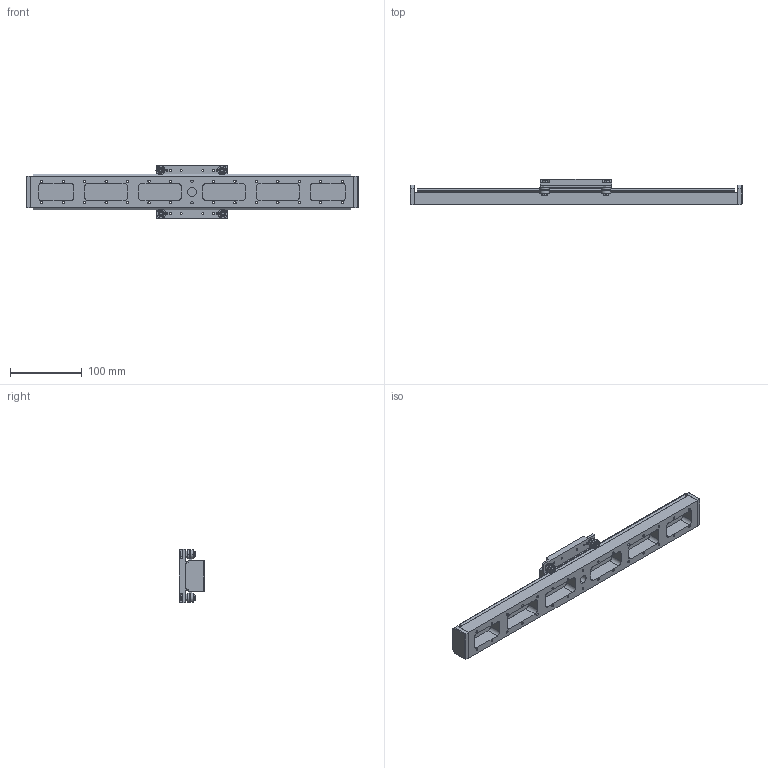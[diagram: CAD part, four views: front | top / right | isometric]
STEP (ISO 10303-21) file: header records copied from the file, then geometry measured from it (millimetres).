
FILE_DESCRIPTION (( 'STEP AP214' ), '1' );
FILE_NAME ('VSM23-P-350 - Simplified.STEP', '2024-06-21T09:15:37', ( '' ), ( '' ), 'SwSTEP 2.0', 'SolidWorks 2024', '' );
FILE_SCHEMA (( 'AUTOMOTIVE_DESIGN' ));
Length unit declared in the file: millimetre
Products named in the file (16): P0301.040-A2_P0301.040-A2; Inner_Simplified; VSM23-P-350 - Simplified; Outer_Simplified; VSM23-P Passive Carriage_Simplified; Eccentric Bearing Assy_Simplified; Concentric shaft_Simplified; M4 Washer; VSM23-P Passive Carriage Assy_Simplified; VSM23-P-350 Base plate_Simplified; VSM23-P End Plate_Simplified; VSM23-X-350 V-slide_Simplified; Bearing_Simplified; Eccentric shaft_Simplified; Ball; Concentric Bearing Assy_Simplified
Assembly tree (34 placements, depth 5):
  VSM23-P-350 - Simplified
    VSM23-P-350 Base plate_Simplified
    VSM23-X-350 V-slide_Simplified
    VSM23-P Passive Carriage Assy_Simplified
      VSM23-P Passive Carriage_Simplified
      Eccentric Bearing Assy_Simplified  x2
        Eccentric shaft_Simplified
        Bearing_Simplified
          Outer_Simplified
          Inner_Simplified
          Ball  x8
        P0301.040-A2_P0301.040-A2
      Concentric Bearing Assy_Simplified  x2
        Concentric shaft_Simplified
        Bearing_Simplified
          Outer_Simplified
          Inner_Simplified
          Ball  x8
        P0301.040-A2_P0301.040-A2
      M4 Washer  x2
      P0301.040-A2_P0301.040-A2  x4
    VSM23-P End Plate_Simplified  x2
Bounding box: 464 x 36 x 75 mm (x, y, z)
Volume: 392959.6 mm3; surface area: 146744.6 mm2
Topology: 99 solids, 99 shells, 1061 faces, 2655 edges, 1718 vertices
Faces by surface type: cylinder 459, plane 274, sphere 128, cone 120, torus 80
Entity records: 16498 total; most frequent: DIRECTION 2963, CARTESIAN_POINT 2905, ORIENTED_EDGE 2526, EDGE_CURVE 1263, AXIS2_PLACEMENT_3D 1206, VERTEX_POINT 828, EDGE_LOOP 741, CIRCLE 672
